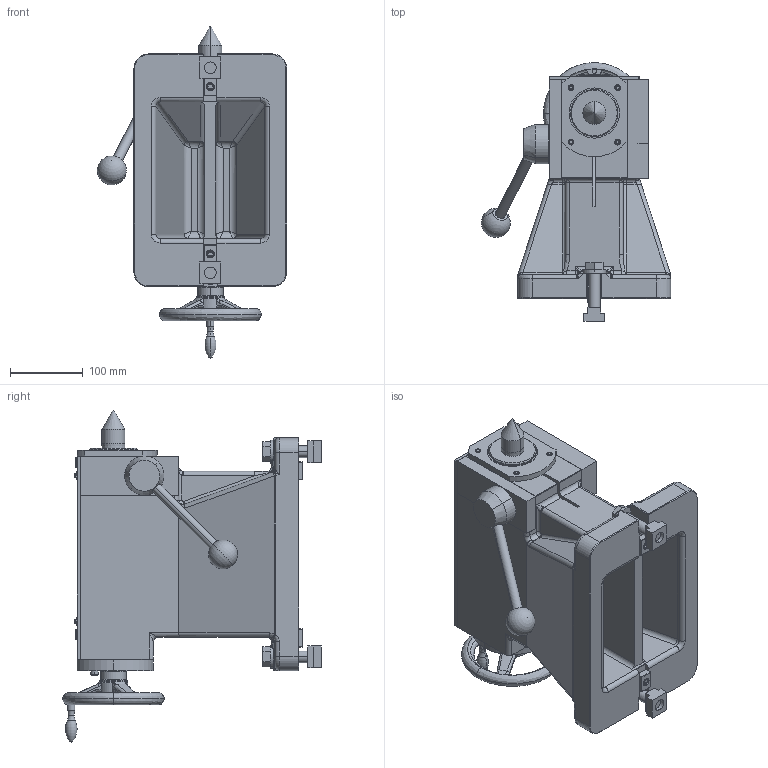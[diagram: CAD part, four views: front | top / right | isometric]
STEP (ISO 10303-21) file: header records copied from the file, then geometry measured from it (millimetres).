
FILE_DESCRIPTION (( 'STEP AP214' ), '1' );
FILE_NAME ('TS400RN.STEP', '2020-03-15T23:45:47', ( '' ), ( '' ), 'SwSTEP 2.0', 'SolidWorks 2017', '' );
FILE_SCHEMA (( 'AUTOMOTIVE_DESIGN' ));
Length unit declared in the file: millimetre
Products named in the file (14): クランププレートA(61E4351821)TS500R; ガイドブロック(61M4197783); ボデー(61E2466190)TS400RN; TS400RN; CLAMPING PARTS(61E434402)結合; TS400RNホンタイ; クランプレバー(61E3059341)TS400RN; センタソケット(61E3437355)TS500R; ネームプレート(61E4736691); 僴儞僪儂僀乕儖V140(61E4896830)TS500R; カバー(61E4501512)TS400RN; ベアリングキャップ(61E4351801)TS500R; シールホルダ(61E4351861)TS500R; クランププレートB(61E4351831)TS500R
Assembly tree (15 placements, depth 3):
  TS400RN
    TS400RNホンタイ
      ボデー(61E2466190)TS400RN
      ガイドブロック(61M4197783)  x2
      クランププレートA(61E4351821)TS500R
      クランププレートB(61E4351831)TS500R
      シールホルダ(61E4351861)TS500R
      ベアリングキャップ(61E4351801)TS500R
      カバー(61E4501512)TS400RN
      僴儞僪儂僀乕儖V140(61E4896830)TS500R
      ネームプレート(61E4736691)
      センタソケット(61E3437355)TS500R
      クランプレバー(61E3059341)TS400RN
    CLAMPING PARTS(61E434402)結合  x2
Bounding box: 260.37 x 356 x 456.4 mm (x, y, z)
Volume: 9267339.9 mm3; surface area: 876950.5 mm2
Topology: 14 solids, 14 shells, 2283 faces, 6194 edges, 3992 vertices
Faces by surface type: plane 1738, cylinder 274, bspline 159, cone 62, torus 42, sphere 8
Entity records: 97323 total; most frequent: CARTESIAN_POINT 38760, ORIENTED_EDGE 11952, DIRECTION 10320, EDGE_CURVE 5976, VECTOR 4900, LINE 4900, VERTEX_POINT 3891, AXIS2_PLACEMENT_3D 2710
